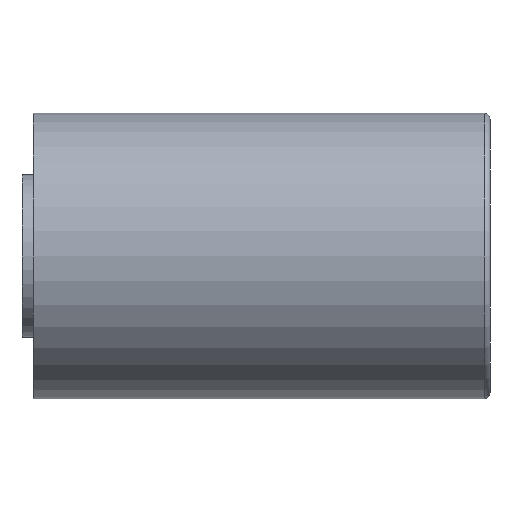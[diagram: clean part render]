
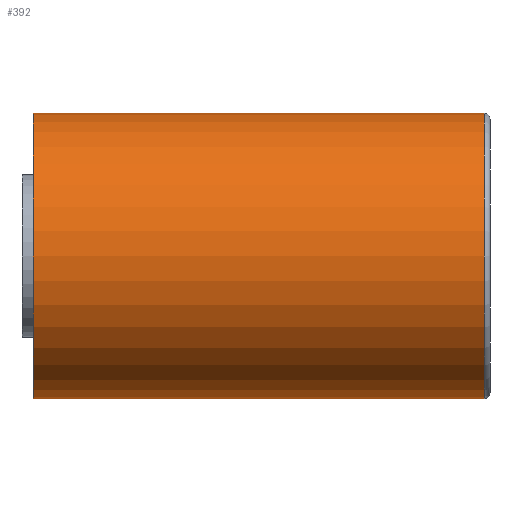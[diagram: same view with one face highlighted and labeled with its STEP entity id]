
A CAD part, front view. The second image highlights one B-rep face of the part: STEP entity #392.
In plain terms, the highlighted cylindrical face has radius 2.5 mm (diameter 5 mm), a full revolution.
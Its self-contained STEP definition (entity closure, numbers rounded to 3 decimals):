
#392 = ADVANCED_FACE( '', ( #897, #898 ), #899, .T. );
#897 = FACE_OUTER_BOUND( '', #1440, .T. );
#898 = FACE_OUTER_BOUND( '', #1441, .T. );
#899 = CYLINDRICAL_SURFACE( '', #1442, 2.5 );
#1440 = EDGE_LOOP( '', ( #3336 ) );
#1441 = EDGE_LOOP( '', ( #3337 ) );
#1442 = AXIS2_PLACEMENT_3D( '', #3338, #3339, #3340 );
#3336 = ORIENTED_EDGE( '', *, *, #3593, .T. );
#3337 = ORIENTED_EDGE( '', *, *, #4086, .F. );
#3338 = CARTESIAN_POINT( '', ( 7.05, 0., 0. ) );
#3339 = DIRECTION( '', ( -1., 0., 0. ) );
#3340 = DIRECTION( '', ( 0., 0., -1. ) );
#3593 = EDGE_CURVE( '', #4309, #4309, #4310, .T. );
#4086 = EDGE_CURVE( '', #5103, #5103, #5104, .T. );
#4309 = VERTEX_POINT( '', #5418 );
#4310 = CIRCLE( '', #5419, 2.5 );
#5103 = VERTEX_POINT( '', #6666 );
#5104 = CIRCLE( '', #6667, 2.5 );
#5418 = CARTESIAN_POINT( '', ( -0.95, 0., -2.5 ) );
#5419 = AXIS2_PLACEMENT_3D( '', #6901, #6902, #6903 );
#6666 = CARTESIAN_POINT( '', ( 6.95, 0., -2.5 ) );
#6667 = AXIS2_PLACEMENT_3D( '', #7472, #7473, #7474 );
#6901 = CARTESIAN_POINT( '', ( -0.95, 0., 0. ) );
#6902 = DIRECTION( '', ( 1., 0., 0. ) );
#6903 = DIRECTION( '', ( 0., 0., -1. ) );
#7472 = CARTESIAN_POINT( '', ( 6.95, 0., 0. ) );
#7473 = DIRECTION( '', ( 1., 0., 0. ) );
#7474 = DIRECTION( '', ( 0., 0., -1. ) );
